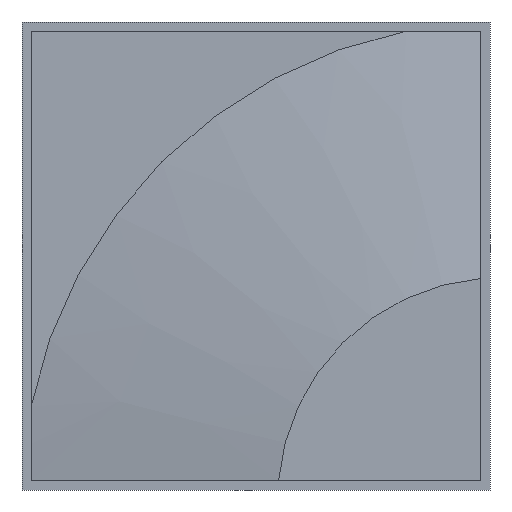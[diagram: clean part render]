
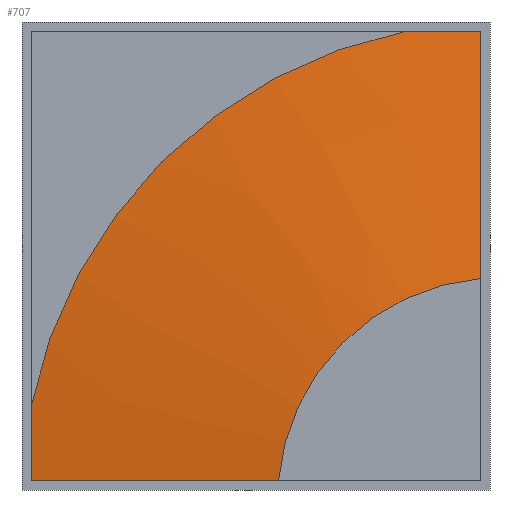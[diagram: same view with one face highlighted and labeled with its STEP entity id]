
A CAD part, front view. The second image highlights one B-rep face of the part: STEP entity #707.
In plain terms, the highlighted conical face has half-angle 78.016 degrees and reference radius 450.28 mm.
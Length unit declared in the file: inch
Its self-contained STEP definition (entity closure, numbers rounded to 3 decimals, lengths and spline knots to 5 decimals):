
#15=CONICAL_SURFACE('',#801,17.72758,1.362);
#17=(
BOUNDED_CURVE()
B_SPLINE_CURVE(2,(#1330,#1331,#1332),.UNSPECIFIED.,.F.,.F.)
B_SPLINE_CURVE_WITH_KNOTS((3,3),(0.,32.89086),.UNSPECIFIED.)
CURVE()
GEOMETRIC_REPRESENTATION_ITEM()
RATIONAL_B_SPLINE_CURVE((1.,1.073,1.003))
REPRESENTATION_ITEM('')
);
#18=(
BOUNDED_CURVE()
B_SPLINE_CURVE(2,(#1340,#1341,#1342),.UNSPECIFIED.,.F.,.F.)
B_SPLINE_CURVE_WITH_KNOTS((3,3),(-24.07191,-14.50562),
 .UNSPECIFIED.)
CURVE()
GEOMETRIC_REPRESENTATION_ITEM()
RATIONAL_B_SPLINE_CURVE((1.,1.008,1.009))
REPRESENTATION_ITEM('')
);
#19=(
BOUNDED_CURVE()
B_SPLINE_CURVE(2,(#1366,#1367,#1368),.UNSPECIFIED.,.F.,.F.)
B_SPLINE_CURVE_WITH_KNOTS((3,3),(0.80339,33.69425),
 .UNSPECIFIED.)
CURVE()
GEOMETRIC_REPRESENTATION_ITEM()
RATIONAL_B_SPLINE_CURVE((1.003,1.073,1.))
REPRESENTATION_ITEM('')
);
#20=(
BOUNDED_CURVE()
B_SPLINE_CURVE(2,(#1372,#1373,#1374),.UNSPECIFIED.,.F.,.F.)
B_SPLINE_CURVE_WITH_KNOTS((3,3),(0.,9.56629),.UNSPECIFIED.)
CURVE()
GEOMETRIC_REPRESENTATION_ITEM()
RATIONAL_B_SPLINE_CURVE((1.,1.008,1.009))
REPRESENTATION_ITEM('')
);
#195=FACE_OUTER_BOUND('',#241,.T.);
#241=EDGE_LOOP('',(#635,#636,#637,#638,#639,#640));
#277=CIRCLE('',#795,11.25);
#278=CIRCLE('',#800,24.20515);
#341=VERTEX_POINT('',#1326);
#343=VERTEX_POINT('',#1329);
#346=VERTEX_POINT('',#1339);
#349=VERTEX_POINT('',#1349);
#355=VERTEX_POINT('',#1365);
#356=VERTEX_POINT('',#1371);
#434=EDGE_CURVE('',#343,#341,#17,.T.);
#438=EDGE_CURVE('',#346,#341,#18,.T.);
#443=EDGE_CURVE('',#349,#343,#277,.T.);
#450=EDGE_CURVE('',#355,#349,#19,.T.);
#452=EDGE_CURVE('',#356,#355,#20,.T.);
#454=EDGE_CURVE('',#346,#356,#278,.T.);
#635=ORIENTED_EDGE('',*,*,#452,.T.);
#636=ORIENTED_EDGE('',*,*,#450,.T.);
#637=ORIENTED_EDGE('',*,*,#443,.T.);
#638=ORIENTED_EDGE('',*,*,#434,.T.);
#639=ORIENTED_EDGE('',*,*,#438,.F.);
#640=ORIENTED_EDGE('',*,*,#454,.T.);
#707=ADVANCED_FACE('',(#195),#15,.T.);
#795=AXIS2_PLACEMENT_3D('',#1351,#969,#970);
#800=AXIS2_PLACEMENT_3D('',#1377,#987,#988);
#801=AXIS2_PLACEMENT_3D('',#1378,#989,#990);
#969=DIRECTION('center_axis',(0.,1.,0.));
#970=DIRECTION('ref_axis',(-0.996,0.,0.086));
#987=DIRECTION('center_axis',(0.,-1.,0.));
#988=DIRECTION('ref_axis',(0.981,0.,-0.196));
#989=DIRECTION('center_axis',(0.,1.,0.));
#990=DIRECTION('ref_axis',(0.925,0.,0.379));
#1326=CARTESIAN_POINT('',(11.387,2.90477,11.387));
#1329=CARTESIAN_POINT('',(11.387,0.25,-1.14129));
#1330=CARTESIAN_POINT('Ctrl Pts',(11.387,0.25,-1.14129));
#1331=CARTESIAN_POINT('Ctrl Pts',(11.387,1.10151,2.88491));
#1332=CARTESIAN_POINT('Ctrl Pts',(11.387,2.90477,11.387));
#1339=CARTESIAN_POINT('',(7.61248,3.,11.387));
#1340=CARTESIAN_POINT('Ctrl Pts',(7.61248,3.,11.387));
#1341=CARTESIAN_POINT('Ctrl Pts',(9.51739,2.92086,11.387));
#1342=CARTESIAN_POINT('Ctrl Pts',(11.387,2.90477,11.387));
#1349=CARTESIAN_POINT('',(1.14129,0.25,-11.387));
#1351=CARTESIAN_POINT('Origin',(12.35,0.25,-12.35));
#1365=CARTESIAN_POINT('',(-11.387,2.90477,-11.387));
#1366=CARTESIAN_POINT('Ctrl Pts',(-11.387,2.90477,-11.387));
#1367=CARTESIAN_POINT('Ctrl Pts',(-2.88491,1.10151,-11.387));
#1368=CARTESIAN_POINT('Ctrl Pts',(1.14129,0.25,-11.387));
#1371=CARTESIAN_POINT('',(-11.387,3.,-7.61248));
#1372=CARTESIAN_POINT('Ctrl Pts',(-11.387,3.,-7.61248));
#1373=CARTESIAN_POINT('Ctrl Pts',(-11.387,2.92086,-9.51739));
#1374=CARTESIAN_POINT('Ctrl Pts',(-11.387,2.90477,-11.387));
#1377=CARTESIAN_POINT('Origin',(12.35,3.,-12.35));
#1378=CARTESIAN_POINT('Origin',(12.35,1.625,-12.35));
